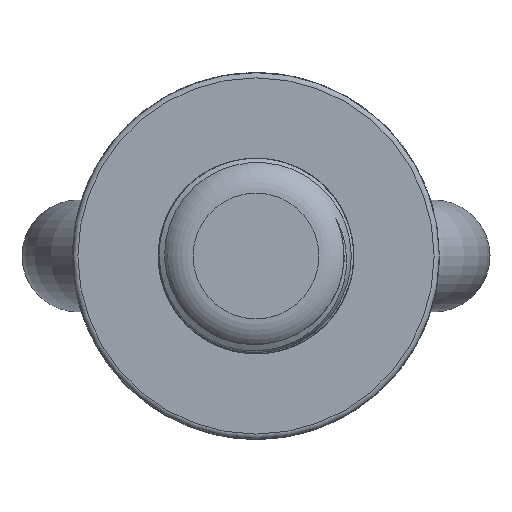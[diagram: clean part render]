
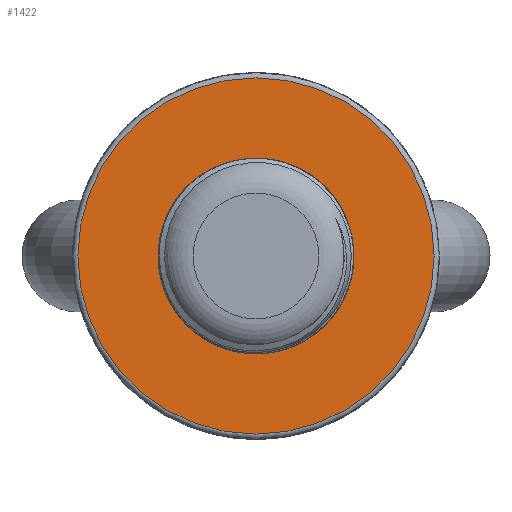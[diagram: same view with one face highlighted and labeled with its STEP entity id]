
A CAD part, front view. The second image highlights one B-rep face of the part: STEP entity #1422.
In plain terms, the highlighted planar face has unit normal (0, -1, 0).
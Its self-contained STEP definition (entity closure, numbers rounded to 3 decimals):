
#429=PLANE('',#4638);
#1422=ADVANCED_FACE('',(#1738,#1739),#429,.F.);
#1738=FACE_BOUND('',#1803,.T.);
#1739=FACE_BOUND('',#1804,.T.);
#1803=EDGE_LOOP('',(#2264));
#1804=EDGE_LOOP('',(#2265));
#2264=ORIENTED_EDGE('',*,*,#3974,.F.);
#2265=ORIENTED_EDGE('',*,*,#3973,.T.);
#3540=VERTEX_POINT('',#6696);
#3541=VERTEX_POINT('',#6699);
#3973=EDGE_CURVE('',#3540,#3540,#4485,.T.);
#3974=EDGE_CURVE('',#3541,#3541,#4486,.T.);
#4485=CIRCLE('',#4635,51.);
#4486=CIRCLE('',#4637,27.9);
#4635=AXIS2_PLACEMENT_3D('',#6695,#5119,#5120);
#4637=AXIS2_PLACEMENT_3D('',#6698,#5123,#5124);
#4638=AXIS2_PLACEMENT_3D('',#6700,#5125,#5126);
#5119=DIRECTION('',(0.,-1.,0.));
#5120=DIRECTION('',(1.,0.,0.));
#5123=DIRECTION('',(0.,-1.,0.));
#5124=DIRECTION('',(1.,0.,0.));
#5125=DIRECTION('',(0.,1.,0.));
#5126=DIRECTION('',(-1.,0.,0.));
#6695=CARTESIAN_POINT('',(0.,-36.301,0.));
#6696=CARTESIAN_POINT('',(51.,-36.301,0.));
#6698=CARTESIAN_POINT('',(0.,-36.301,0.));
#6699=CARTESIAN_POINT('',(27.9,-36.301,0.));
#6700=CARTESIAN_POINT('',(51.,-36.301,0.));
